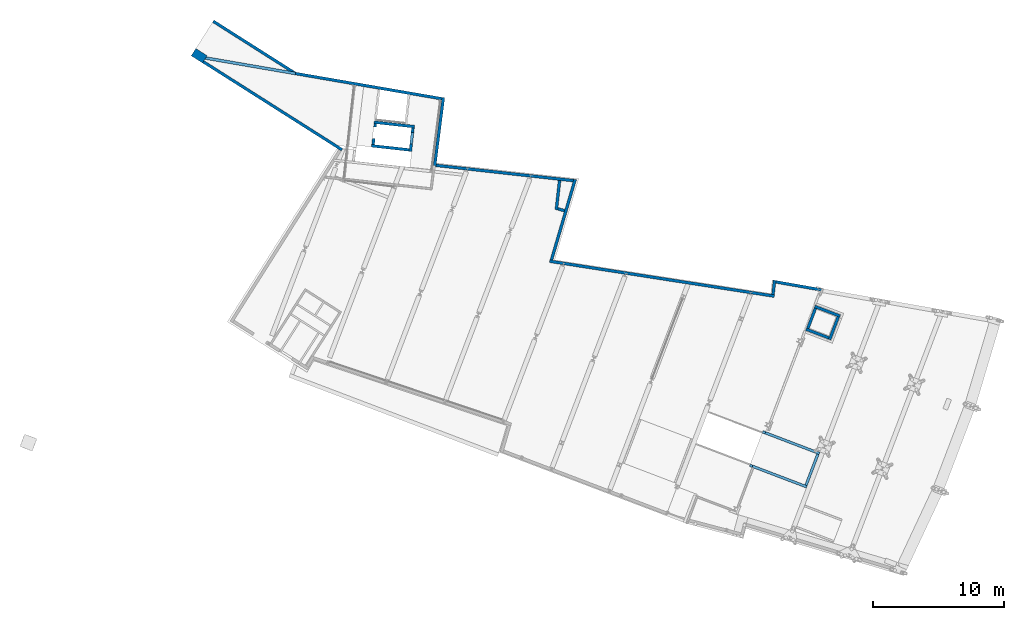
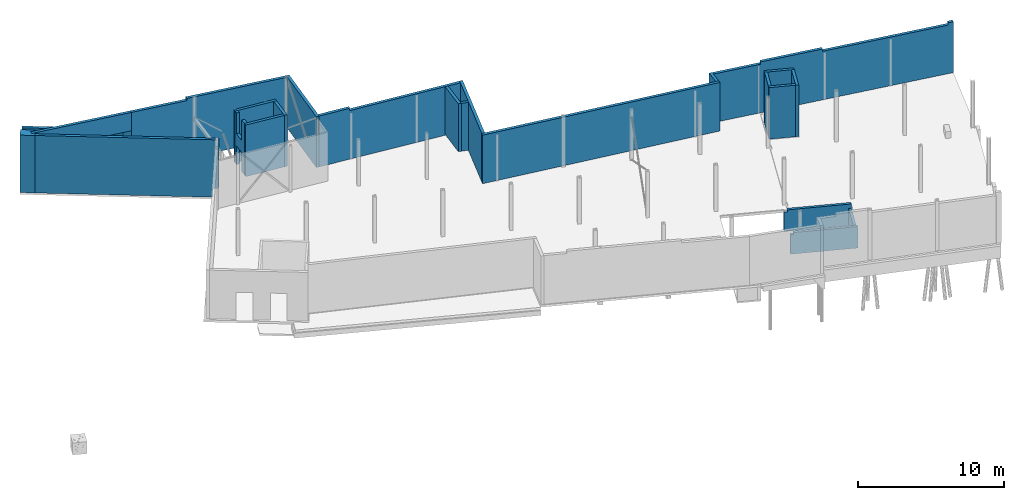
# One storey, part 43 of 46: 24 walls, 3 openings.
"""IFC2X3 building model written with IfcOpenShell, lengths in millimetres."""

from ifc_helpers import new_model, entity, si_unit, converted_unit, derived_unit, direction, frame, frame_2d, origin, place, context, subcontext, project, spatial, polyline, rectangle, outline, extrude, clip, halfspace, bounded_halfspace, faceted_brep, material, layer, layer_set, layer_usage, type_object, element, save


model = new_model("IFC2X3")

# Units and contexts
model_context = context("Model", 3, precision=0.01, world=origin(), true_north=direction((6.123233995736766e-17, 1.0)))
body_context = subcontext(model_context, "Body", "Model", "MODEL_VIEW")
ifc_project = project(units=[si_unit("LENGTHUNIT", "METRE", prefix="MILLI"), converted_unit("PLANEANGLEUNIT", "DEGREE", entity("IfcPlaneAngleMeasure", 0.017453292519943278), si_unit("PLANEANGLEUNIT", "RADIAN"), dimensions=[0, 0, 0, 0, 0, 0, 0]), si_unit("AREAUNIT", "SQUARE_METRE"), derived_unit("THERMALTRANSMITTANCEUNIT", [(si_unit("MASSUNIT", "GRAM", prefix="KILO"), 1), (si_unit("THERMODYNAMICTEMPERATUREUNIT", "KELVIN"), -1), (si_unit("TIMEUNIT", "SECOND"), -3)])], contexts=[model_context])

# Site, building, storey
site_placement = place(None, frame((-72937.88054949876, 11621.45624098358, 0.0), z_axis=(0.0, 0.0, 1.0), x_axis=(0.9346418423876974, -0.35559053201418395, 0.0)))
site = spatial("IfcSite", under=ifc_project, at=site_placement, Name="Default", CompositionType="ELEMENT")
building_placement = place(site_placement, origin())
building = spatial("IfcBuilding", under=site, at=building_placement, CompositionType="ELEMENT")
storey_placement = place(building_placement, origin())
storey = spatial("IfcBuildingStorey", under=building, at=storey_placement, Name="00 begane grond", CompositionType="ELEMENT", Elevation=0.0)

# Walls
ifc_material_1 = material(Name="steenachtig_baksteen_steen")
ifc_layer_1 = layer(ifc_material_1, 220.0)
ifc_layer_set_1 = layer_set([ifc_layer_1], Name="Basic Wall:22.21_WA_Metselwerk 220mm")
ifc_layer_usage_1 = layer_usage(ifc_layer_set_1, "AXIS2", "POSITIVE", -110.0)
wall_type_1 = type_object("IfcWallType", Name="22.21_muur", PredefinedType="STANDARD", material=ifc_layer_set_1)
wall_1_placement = place(storey_placement, frame((20793.142018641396, 36487.393505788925, -60.0), z_axis=(0.0, 0.0, 1.0), x_axis=(0.2347367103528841, -0.9720589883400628, 0.0)))
element("IfcWallStandardCase", 1, at=wall_1_placement, inside=storey, type_object=wall_type_1, material=ifc_layer_usage_1, Name="Basic Wall:22.21_WA_Metselwerk 220mm", ObjectType="Basic Wall:22.21_WA_Metselwerk 220mm", context=body_context, shape_type="SweptSolid", body=[
    extrude(outline(polyline([(5336.076458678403, -110.0), (5332.603547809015, 110.0), (5112.576137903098, 110.0), (9.730940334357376, 110.0), (0.0, -110.0), (5336.076458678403, -110.0)])), origin(), (0.0, 0.0, 1.0), 4250.0),
])
ifc_layer_usage_2 = layer_usage(ifc_layer_set_1, "AXIS2", "NEGATIVE", 110.0)
wall_2_placement = place(storey_placement, frame((32833.90924284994, 27665.482047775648, -60.0), z_axis=(0.0, 0.0, 1.0), x_axis=(0.9781855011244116, 0.2077333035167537, 0.0)))
element("IfcWallStandardCase", 2, at=wall_2_placement, inside=storey, type_object=wall_type_1, material=ifc_layer_usage_2, Name="Basic Wall:22.21_WA_Metselwerk 220mm", ObjectType="Basic Wall:22.21_WA_Metselwerk 220mm", context=body_context, shape_type="Clipping", body=[
    clip(extrude(outline(polyline([(17426.86842745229, -110.0), (17417.245947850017, 110.0), (17197.0356117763, 110.0), (251.15326873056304, 110.0), (29.221129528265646, 110.0), (0.0, -110.0), (17426.86842745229, -110.0)])), origin(), (0.0, 0.0, 1.0), 4060.0), bounded_halfspace(frame((0.0, -110.0, 4060.0), z_axis=(0.0, 0.0, -1.0), x_axis=(0.2077333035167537, 0.9781855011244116, 0.0)), True, frame((0.0, -110.0, 4060.0)), polyline([(0.0, 0.0), (17426.86842745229, 0.0), (17417.24594785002, 220.0), (17197.035611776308, 220.0), (251.15326873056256, 220.0), (29.221129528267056, 220.0), (0.0, 0.0)]))),
])
ifc_layer_usage_3 = layer_usage(ifc_layer_set_1, "AXIS2", "NEGATIVE", 110.0)
wall_3_placement = place(storey_placement, frame((49741.85690573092, 31363.693864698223, -60.0), z_axis=(0.0, 0.0, 1.0), x_axis=(-0.2502784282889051, 0.96817390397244, 0.0)))
element("IfcWallStandardCase", 3, at=wall_3_placement, inside=storey, type_object=wall_type_1, material=ifc_layer_usage_3, Name="Basic Wall:22.21_WA_Metselwerk 220mm", ObjectType="Basic Wall:22.21_WA_Metselwerk 220mm", context=body_context, shape_type="Clipping", body=[
    clip(extrude(outline(polyline([(1095.4292679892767, -110.0), (1109.5768375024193, 110.0), (9.622479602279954, 110.0), (0.0, -110.0), (874.9748424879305, -110.0), (1095.4292679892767, -110.0)])), origin(), (0.0, 0.0, 1.0), 4060.0), bounded_halfspace(frame((0.0, -110.0, 4060.0), z_axis=(0.0, 0.0, -1.0), x_axis=(0.96817390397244, -0.2502784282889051, 0.0)), True, frame((0.0, -110.0, 4060.0)), polyline([(0.0, 0.0), (874.9748424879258, 0.0), (1095.4292679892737, 0.0), (1109.5768375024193, 220.0), (9.622479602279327, 220.0), (0.0, 0.0)]))),
])
ifc_layer_usage_4 = layer_usage(ifc_layer_set_1, "AXIS2", "POSITIVE", -110.0)
wall_4_placement = place(storey_placement, frame((32949.31457898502, 27787.636962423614, -60.0), z_axis=(0.0, 0.0, 1.0), x_axis=(-0.07713007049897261, 0.9970210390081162, 0.0)))
element("IfcWallStandardCase", 4, at=wall_4_placement, inside=storey, type_object=wall_type_1, material=ifc_layer_usage_4, Name="Basic Wall:22.21_WA_Metselwerk 220mm", ObjectType="Basic Wall:22.21_WA_Metselwerk 220mm", context=body_context, shape_type="Clipping", body=[
    clip(extrude(outline(polyline([(6467.96028402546, -110.0), (6428.94313082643, 110.0), (6205.510057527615, 110.0), (0.0, 110.0), (29.22112952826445, -110.0), (6467.96028402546, -110.0)])), origin(), (0.0, 0.0, 1.0), 4059.9999999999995), bounded_halfspace(frame((29.221129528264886, -110.0, 4060.0), z_axis=(0.0, 0.0, -1.0), x_axis=(0.9970210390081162, -0.07713007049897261, 0.0)), True, frame((29.221129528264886, -110.0, 4060.0)), polyline([(0.0, 0.0), (6438.739154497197, 0.0), (6399.722001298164, 220.0), (6176.288927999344, 220.0), (3997.6435209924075, 220.0), (3777.6435209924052, 220.0), (-29.22112952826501, 220.0), (0.0, 0.0)]))),
])
ifc_layer_usage_5 = layer_usage(ifc_layer_set_1, "AXIS2", "NEGATIVE", 110.0)
wall_5_placement = place(storey_placement, frame((49594.8330609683, 32343.74415494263, -60.0), z_axis=(0.0, 0.0, 1.0), x_axis=(0.9822397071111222, 0.18763037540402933, 0.0)))
element("IfcWallStandardCase", 5, at=wall_5_placement, inside=storey, type_object=wall_type_1, material=ifc_layer_usage_5, Name="Basic Wall:22.21_WA_Metselwerk 220mm", ObjectType="Basic Wall:22.21_WA_Metselwerk 220mm", context=body_context, shape_type="Clipping", body=[
    clip(clip(extrude(outline(polyline([(17489.566682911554, -110.0), (17489.56668291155, 110.0), (0.0, 110.0), (14.14756951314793, -110.0), (17489.566682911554, -110.0)])), origin(), (0.0, 0.0, 1.0), 4250.000000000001), bounded_halfspace(frame((14.147569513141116, -110.0, 4060.0), z_axis=(0.0, 0.0, -1.0), x_axis=(0.18763037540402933, 0.9822397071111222, 0.0)), True, frame((14.147569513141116, -110.0, 4060.0)), polyline([(0.0, 0.0), (3411.2154792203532, 0.0), (3453.240539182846, 220.0), (-14.147569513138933, 220.0), (0.0, 0.0)]))), bounded_halfspace(frame((7945.644572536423, -110.0, 4060.0), z_axis=(0.0, 0.0, -1.0), x_axis=(0.18763037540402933, 0.9822397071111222, 0.0)), True, frame((7945.644572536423, -110.0, 4060.0)), polyline([(0.0, 0.0), (9156.780226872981, 0.0), (9182.138076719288, 220.0), (42.0250599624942, 220.0), (0.0, 0.0)]))),
])
ifc_layer_usage_6 = layer_usage(ifc_layer_set_1, "AXIS2", "NEGATIVE", 110.0)
wall_6_placement = place(storey_placement, frame((22124.320773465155, 31436.11494332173, -60.0), z_axis=(0.0, 0.0, 1.0), x_axis=(0.9682328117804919, 0.2500504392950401, 0.0)))
element("IfcWallStandardCase", 6, at=wall_6_placement, inside=storey, type_object=wall_type_1, material=ifc_layer_usage_6, Name="Basic Wall:22.21_WA_Metselwerk 220mm", ObjectType="Basic Wall:22.21_WA_Metselwerk 220mm", context=body_context, shape_type="Clipping", body=[
    clip(extrude(outline(polyline([(10544.142266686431, -110.0), (10583.159419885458, 110.0), (3.4729108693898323, 110.0), (0.0, -110.0), (10544.142266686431, -110.0)])), origin(), (0.0, 0.0, 1.0), 4250.0), bounded_halfspace(frame((2270.294552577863, -110.0, 4060.0), z_axis=(0.0, 0.0, -1.0), x_axis=(0.2500504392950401, 0.9682328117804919, 0.0)), True, frame((2270.294552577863, -110.0, 4060.0)), polyline([(0.0, 0.0), (7136.297940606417, 0.0), (7356.297940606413, 0.0), (8273.847714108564, 0.0), (8312.864867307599, 220.0), (56.81598059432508, 220.0), (0.0, 0.0)]))),
])
wall_7_placement = place(storey_placement, frame((20716.837186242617, 36355.473432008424, -800.0), z_axis=(0.0, 0.0, 1.0), x_axis=(-0.9814821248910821, -0.19155374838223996, 0.0)))
element("IfcWall", 7, at=wall_7_placement, inside=storey, type_object=wall_type_1, Name="Basic Wall:22.21_WA_Metselwerk 220mm", ObjectType="Basic Wall:22.21_WA_Metselwerk 220mm", context=body_context, shape_type="Brep", body=[
    faceted_brep([(9.73094033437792, -110.0, 4990.0), (9.73094033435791, -110.0, 740.0), (9.730940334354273, -110.0, 0.0), (11336.119058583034, -110.0, 0.0), (11908.177860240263, -110.0, 0.0), (11908.17786024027, -110.0, 3264.766006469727), (11908.177860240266, -110.0, 3294.7660064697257), (11358.116608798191, -110.0, 3294.7660064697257), (11358.116608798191, -110.0, 4800.0), (7346.576492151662, -110.0, 4800.0), (7346.576492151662, -110.0, 4990.0), (0.0, 110.0, 0.0), (0.0, 110.0, 4990.0), (7335.2488949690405, 110.0, 4990.0), (7335.248894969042, 110.0, 4800.0), (11358.116608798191, 110.0, 4800.0), (11358.116608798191, 110.0, 3294.7660064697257), (11380.114159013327, 110.0, 3294.7660064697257), (11380.114159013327, 110.0, 3264.7660064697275), (11380.11415901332, 110.0, 0.0)], [[[0, 1, 2, 3, 4, 5, 6, 7, 8, 9, 10]], [[11, 12, 13, 14, 15, 16, 17, 18, 19]], [[4, 3, 2, 11, 19]], [[0, 10, 13, 12]], [[13, 10, 9, 14]], [[9, 8, 15, 14]], [[0, 12, 11, 2, 1]], [[8, 7, 16, 15]], [[16, 7, 6, 17]], [[4, 19, 18, 17, 6, 5]]]),
])
ifc_layer_usage_7 = layer_usage(ifc_layer_set_1, "AXIS2", "NEGATIVE", 110.0)
wall_8_placement = place(storey_placement, frame((31934.555067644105, 31508.10745154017, 0.0), z_axis=(0.0, 0.0, 1.0), x_axis=(-0.25005043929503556, 0.968232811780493, 0.0)))
element("IfcWallStandardCase", 8, at=wall_8_placement, inside=storey, type_object=wall_type_1, material=ifc_layer_usage_7, Name="Basic Wall:22.21_WA_Metselwerk 220mm", ObjectType="Basic Wall:22.21_WA_Metselwerk 220mm", context=body_context, shape_type="SweptSolid", body=[
    extrude(outline(polyline([(2273.3478861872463, -110.0), (2273.347886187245, 110.0), (39.01715319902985, 110.0), (0.0, -110.0), (223.43307329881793, -110.0), (2273.3478861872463, -110.0)])), origin(), (0.0, 0.0, 1.0), 4000.0000000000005),
])
ifc_layer_usage_8 = layer_usage(ifc_layer_set_1, "AXIS2", "NEGATIVE", 110.0)
wall_9_placement = place(storey_placement, frame((31993.675446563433, 31642.275918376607, 0.0), z_axis=(0.0, 0.0, 1.0), x_axis=(0.9970210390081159, 0.07713007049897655, 0.0)))
element("IfcWallStandardCase", 9, at=wall_9_placement, inside=storey, type_object=wall_type_1, material=ifc_layer_usage_8, Name="Basic Wall:22.21_WA_Metselwerk 220mm", ObjectType="Basic Wall:22.21_WA_Metselwerk 220mm", context=body_context, shape_type="SweptSolid", body=[
    extrude(outline(polyline([(545.4837463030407, -110.0), (545.4837463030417, 110.0), (0.0, 110.0), (39.01715319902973, -110.0), (545.4837463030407, -110.0)])), origin(), (0.0, 0.0, 1.0), 4000.0000000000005),
])
ifc_layer_usage_9 = layer_usage(ifc_layer_set_1, "AXIS2", "NEGATIVE", 110.0)
wall_10_placement = place(storey_placement, frame((14965.14868633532, 29986.97947351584, -800.0), z_axis=(0.0, 0.0, 1.0), x_axis=(-0.9796666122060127, 0.2006323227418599, 0.0)))
element("IfcWallStandardCase", 10, at=wall_10_placement, inside=storey, type_object=wall_type_1, material=ifc_layer_usage_9, Name="Basic Wall:22.21_WA_Metselwerk 220mm", ObjectType="Basic Wall:22.21_WA_Metselwerk 220mm", context=body_context, shape_type="Clipping", body=[
    clip(clip(extrude(outline(polyline([(0.21545175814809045, -110.0), (12580.09717231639, -110.0), (12580.09717231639, 110.0), (0.0, 110.0), (0.21545175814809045, -110.0)])), origin(), (0.0, 0.0, 1.0), 4800.0), bounded_halfspace(frame((12580.097172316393, -110.0, 0.0), z_axis=(0.0, 0.0, 1.0), x_axis=(-0.902096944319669, -0.4315334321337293, 0.0)), True, frame((12580.097172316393, -110.0, 0.0)), polyline([(0.0, 0.0), (0.0, 220.0), (-12200.096990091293, 220.0), (-12199.88153833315, 0.0), (0.0, 0.0)]))), bounded_halfspace(frame((380.21563398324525, -110.0, 740.0), z_axis=(0.0, 0.0, -1.0), x_axis=(0.0, 1.0, 0.0)), False, frame((380.21563398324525, -110.0, 740.0)), polyline([(0.0, 0.0), (-0.21545175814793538, 220.0), (-160.2155284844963, 220.0), (-380.21563398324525, 220.0), (-380.0001822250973, 0.0), (0.0, 0.0)]))),
])
ifc_layer_usage_10 = layer_usage(ifc_layer_set_1, "AXIS2", "NEGATIVE", 110.0)
wall_11_placement = place(storey_placement, frame((9547.498496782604, 34184.19704062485, -800.0), z_axis=(0.0, 0.0, 1.0), x_axis=(-0.9796666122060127, 0.2006323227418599, 0.0)))
element("IfcWallStandardCase", 11, at=wall_11_placement, inside=storey, type_object=wall_type_1, material=ifc_layer_usage_10, Name="Basic Wall:22.21_WA_Metselwerk 220mm", ObjectType="Basic Wall:22.21_WA_Metselwerk 220mm", context=body_context, shape_type="SweptSolid", body=[
    extrude(outline(polyline([(7454.1691137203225, -110.0), (7454.1691137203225, 110.0), (528.063701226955, 110.0), (0.0, -110.0), (7454.1691137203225, -110.0)])), origin(), (0.0, 0.0, 1.0), 3294.7660064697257),
])
wall_12_placement = place(storey_placement, frame((9569.0487622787, 34179.783621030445, 2464.7660064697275), z_axis=(0.0, 0.0, 1.0), x_axis=(-0.9814821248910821, -0.19155374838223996, 0.0)))
element("IfcWall", 12, at=wall_12_placement, inside=storey, type_object=wall_type_1, Name="Basic Wall:22.21_WA_Metselwerk 220mm", ObjectType="Basic Wall:22.21_WA_Metselwerk 220mm", context=body_context, shape_type="Brep", body=[
    faceted_brep([(550.0612514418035, -110.0, 0.0), (6944.262518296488, -110.0, 0.0), (7293.536949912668, -110.0, 0.0), (7293.536949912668, -110.0, 1535.233993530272), (6944.262518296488, -110.0, 1535.233993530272), (0.0, -110.0, 1535.233993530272), (0.0, -110.0, 30.0), (550.0612514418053, -110.0, 30.0), (7293.536949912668, 110.0, 0.0), (7035.918127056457, 110.0, 0.0), (21.99755021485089, 110.0, 0.0), (21.997550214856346, 110.0, 30.0), (0.0, 110.0, 30.0), (0.0, 110.0, 1535.233993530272), (7035.918127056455, 110.0, 1535.233993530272), (7293.536949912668, 110.0, 1535.233993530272)], [[[0, 1, 2, 3, 4, 5, 6, 7]], [[8, 9, 10, 11, 12, 13, 14, 15]], [[2, 1, 0, 10, 9, 8]], [[3, 2, 8, 15]], [[5, 4, 3, 15, 14, 13]], [[5, 13, 12, 6]], [[6, 12, 11, 7]], [[10, 0, 7, 11]]]),
])
ifc_layer_2 = layer(ifc_material_1, 660.0000000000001)
ifc_layer_set_2 = layer_set([ifc_layer_2], Name="Basic Wall:22.21_WA_Metselwerk 660mm")
wall_type_2 = type_object("IfcWallType", Name="22.21_muur", PredefinedType="STANDARD", material=ifc_layer_set_2)
wall_13_placement = place(storey_placement, frame((2684.986619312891, 32726.480244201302, -800.0), z_axis=(0.0, 0.0, 1.0), x_axis=(-0.9796666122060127, 0.2006323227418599, 0.0)))
element("IfcWall", 13, at=wall_13_placement, inside=storey, type_object=wall_type_2, Name="Basic Wall:22.21_WA_Metselwerk 660mm", ObjectType="Basic Wall:22.21_WA_Metselwerk 660mm", context=body_context, shape_type="Brep", body=[
    faceted_brep([(0.0, -330.0, 0.0), (1023.6604582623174, -330.0, 0.0), (1023.6604582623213, -330.0, 4800.0), (0.0, -330.0, 4800.0), (1023.6604582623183, 330.0, 0.0), (0.0, 330.0, 0.0), (0.0, 330.0, 4800.0), (1023.6604582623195, 330.0, 4800.0), (0.0, 2.466295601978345, 4800.0), (237.8062337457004, 101.54027342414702, 4800.0), (322.41292078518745, -101.5402734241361, 4800.0), (0.0, -235.86278490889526, 4800.0), (0.0, -235.86278490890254, 3264.7660064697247), (0.0, 2.466295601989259, 3264.7660064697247), (322.4129207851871, -101.5402734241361, 3264.7660064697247), (237.80623374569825, 101.54027342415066, 3264.7660064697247)], [[[0, 1, 2, 3]], [[4, 5, 6, 7]], [[1, 0, 5, 4]], [[2, 1, 4, 7]], [[3, 2, 7, 6, 8, 9, 10, 11]], [[0, 3, 11, 12, 13, 8, 6, 5]], [[10, 14, 12, 11]], [[15, 9, 8, 13]], [[14, 15, 13, 12]], [[14, 10, 9, 15]]]),
])
ifc_material_2 = material(Name="beton_gewapend_ihw_c30/37")
ifc_layer_3 = layer(ifc_material_2, 200.0)
ifc_layer_set_3 = layer_set([ifc_layer_3], Name="Basic Wall:22.21_WA_Beton 200mm - C30/37")
ifc_layer_usage_11 = layer_usage(ifc_layer_set_3, "AXIS2", "NEGATIVE", 100.0)
wall_type_3 = type_object("IfcWallType", Name="22.21_muur", PredefinedType="STANDARD", material=ifc_layer_set_3)
wall_14_placement = place(storey_placement, frame((52730.0, 21260.0, -1850.0)))
element("IfcWallStandardCase", 14, at=wall_14_placement, inside=storey, type_object=wall_type_3, material=ifc_layer_usage_11, Name="Basic Wall:22.21_WA_Beton 200mm - C30/37", ObjectType="Basic Wall:22.21_WA_Beton 200mm - C30/37", context=body_context, shape_type="Clipping", body=[
    clip(clip(extrude(rectangle(XDim=4664.999999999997, YDim=199.99999999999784, at=frame_2d((2332.4999999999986, -2.1316282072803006e-14), x_axis=(-1.0, 0.0))), origin(), (0.0, 0.0, 1.0), 1790.0000000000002), bounded_halfspace(frame((220.0, -100.0, 1620.0), z_axis=(0.0, 0.0, -1.0), x_axis=(0.1996728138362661, 0.9798626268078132, 0.0)), True, frame((220.0, -100.0, 1620.0), z_axis=(0.0, 0.0, -1.0), x_axis=(0.1996728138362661, 0.9798626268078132, 0.0)), polyline([(0.0, 0.0), (-43.92801904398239, -215.56977789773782), (152.044506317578, -255.50434066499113), (195.97252536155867, -39.934562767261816), (0.0, 0.0)]))), bounded_halfspace(frame((220.0, 100.0, 1620.0), z_axis=(1.0, 0.0, 0.0), x_axis=(0.0, 0.0, 1.0)), True, frame((220.0, 100.0, 1620.0), z_axis=(1.0, 0.0, 0.0), x_axis=(0.0, 0.0, 1.0)), polyline([(0.0, 0.0), (170.0, 0.0), (170.0, 200.0), (0.0, 200.0), (0.0, 0.0)]))),
])
ifc_layer_usage_12 = layer_usage(ifc_layer_set_3, "AXIS2", "NEGATIVE", 100.0)
wall_15_placement = place(storey_placement, frame((57295.0, 21160.0, -1850.0), z_axis=(0.0, 0.0, 1.0), x_axis=(0.0, -1.0, 0.0)))
element("IfcWallStandardCase", 15, at=wall_15_placement, inside=storey, type_object=wall_type_3, material=ifc_layer_usage_12, Name="Basic Wall:22.21_WA_Beton 200mm - C30/37", ObjectType="Basic Wall:22.21_WA_Beton 200mm - C30/37", context=body_context, shape_type="SweptSolid", body=[
    extrude(rectangle(XDim=2539.9999999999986, YDim=199.99999999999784, at=frame_2d((1269.9999999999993, 4.334310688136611e-12), x_axis=(-1.0, 0.0))), origin(), (0.0, 0.0, 1.0), 1439.9999999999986),
])
ifc_layer_usage_13 = layer_usage(ifc_layer_set_3, "AXIS2", "NEGATIVE", 100.0)
wall_16_placement = place(storey_placement, frame((57395.0, 18520.0, -1850.0), z_axis=(0.0, 0.0, 1.0), x_axis=(-1.0, 0.0, 0.0)))
element("IfcWallStandardCase", 16, at=wall_16_placement, inside=storey, type_object=wall_type_3, material=ifc_layer_usage_13, Name="Basic Wall:22.21_WA_Beton 200mm - C30/37", ObjectType="Basic Wall:22.21_WA_Beton 200mm - C30/37", context=body_context, shape_type="Clipping", body=[
    clip(clip(extrude(rectangle(XDim=4664.999999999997, YDim=200.0, at=frame_2d((2332.4999999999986, -1.5987211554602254e-12), x_axis=(-1.0, 0.0))), origin(), (0.0, 0.0, 1.0), 1790.0000000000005), bounded_halfspace(frame((4445.0, 100.0, 1620.0), z_axis=(0.0, 0.0, -1.0), x_axis=(-0.1996728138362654, -0.9798626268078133, 0.0)), True, frame((4445.0, 100.0, 1620.0), z_axis=(0.0, 0.0, -1.0), x_axis=(-0.19967281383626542, -0.9798626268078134, 0.0)), polyline([(0.0, 0.0), (-43.92801904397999, -215.5697778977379), (152.04450631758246, -255.5043406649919), (195.97252536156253, -39.93456276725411), (0.0, 0.0)]))), bounded_halfspace(frame((4445.0, -100.0, 1620.0), z_axis=(-1.0, 0.0, 0.0), x_axis=(0.0, 0.0, 1.0)), True, frame((4445.0, -100.0, 1620.0), z_axis=(-1.0, 0.0, 0.0), x_axis=(0.0, 0.0, 1.0)), polyline([(0.0, 0.0), (170.0, 0.0), (170.0, 200.0), (0.0, 200.0), (0.0, 0.0)]))),
])
ifc_material_3 = material(Name="steenachtig_kalkzandsteen_generiek")
ifc_layer_4 = layer(ifc_material_3, 214.0)
ifc_layer_set_4 = layer_set([ifc_layer_4], Name="Basic Wall:22.21_WA_Kalkzandsteen214mm")
ifc_layer_usage_14 = layer_usage(ifc_layer_set_4, "AXIS2", "NEGATIVE", 107.0)
wall_type_4 = type_object("IfcWallType", Name="NLRS_22_WA_LIB_Muur_gen_EPA:Kalkzandsteen 200mm", PredefinedType="STANDARD", material=ifc_layer_set_4)
wall_17_placement = place(storey_placement, frame((16513.246333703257, 32836.91860785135, -60.0), z_axis=(0.0, 0.0, 1.0), x_axis=(0.9679826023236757, 0.2510172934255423, 0.0)))
element("IfcWallStandardCase", 17, at=wall_17_placement, inside=storey, type_object=wall_type_4, material=ifc_layer_usage_14, Name="Basic Wall:22.21_WA_Kalkzandsteen214mm", ObjectType="Basic Wall:22.21_WA_Kalkzandsteen214mm", context=body_context, shape_type="Clipping", body=[
    clip(extrude(outline(polyline([(3107.999972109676, -107.0), (3107.999972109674, 107.0), (4.3983270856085e-06, 107.0), (0.0, -107.0), (214.0, -107.0), (2893.999972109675, -107.0), (3107.999972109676, -107.0)])), origin(), (0.0, 0.0, 1.0), 4310.0), halfspace(frame((0.0, 0.0, -60.0)), True)),
])

# Wall, opening
ifc_layer_usage_15 = layer_usage(ifc_layer_set_4, "AXIS2", "NEGATIVE", 107.0)
wall_18_placement = place(storey_placement, frame((19445.020946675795, 33486.64735997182, -60.0), z_axis=(0.0, 0.0, 1.0), x_axis=(0.2510172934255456, -0.967982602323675, 0.0)))
wall_18 = element("IfcWallStandardCase", 18, at=wall_18_placement, inside=storey, type_object=wall_type_4, material=ifc_layer_usage_15, Name="Basic Wall:22.21_WA_Kalkzandsteen214mm", ObjectType="Basic Wall:22.21_WA_Kalkzandsteen214mm", context=body_context, shape_type="Clipping", body=[
    clip(extrude(rectangle(XDim=1814.000003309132, YDim=214.0000000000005, at=frame_2d((907.0000016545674, -3.240074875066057e-12), x_axis=(-1.0, 0.0))), origin(), (0.0, 0.0, 1.0), 4310.0), halfspace(frame((0.0, 0.0, -60.0)), True)),
])
opening_1_placement = place(wall_18_placement, frame((27533.455525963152, -27228.16956439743, 60.0)))
element("IfcOpeningElement", 19, at=opening_1_placement, cuts=wall_18, Name="31.10_Constructiesparing", ObjectType="Opening", context=body_context, shape_type="SweptSolid", body=[
    extrude(rectangle(XDim=2299.999999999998, YDim=900.0000000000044, at=frame_2d((0.0, -2.3874235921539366e-12), x_axis=(1.0, 0.0))), frame((-26733.455464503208, 27121.16956439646, 1150.0), z_axis=(0.0, 1.0, 0.0), x_axis=(0.0, 0.0, -1.0)), (0.0, 0.0, 1.0), 214.00000000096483),
])

# Wall
ifc_layer_usage_16 = layer_usage(ifc_layer_set_4, "AXIS2", "NEGATIVE", 107.0)
wall_19_placement = place(storey_placement, frame((19769.933328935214, 31807.442204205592, -60.0), z_axis=(0.0, 0.0, 1.0), x_axis=(-0.9679826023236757, -0.2510172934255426, 0.0)))
element("IfcWallStandardCase", 20, at=wall_19_placement, inside=storey, type_object=wall_type_4, material=ifc_layer_usage_16, Name="Basic Wall:22.21_WA_Kalkzandsteen214mm", ObjectType="Basic Wall:22.21_WA_Kalkzandsteen214mm", context=body_context, shape_type="Clipping", body=[
    clip(extrude(outline(polyline([(2894.000004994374, -107.0), (2894.0000093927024, 107.0), (0.0, 107.0), (0.0, -107.0), (2680.000004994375, -107.0), (2894.000004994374, -107.0)])), origin(), (0.0, 0.0, 1.0), 4310.0), halfspace(frame((0.0, 0.0, -60.0)), True)),
])

# Wall, openings
ifc_layer_usage_17 = layer_usage(ifc_layer_set_4, "AXIS2", "NEGATIVE", 107.0)
wall_20_placement = place(storey_placement, frame((17045.306961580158, 31211.43114249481, -60.0), z_axis=(0.0, 0.0, 1.0), x_axis=(-0.25101727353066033, 0.9679826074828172, 0.0)))
wall_20 = element("IfcWallStandardCase", 21, at=wall_20_placement, inside=storey, type_object=wall_type_4, material=ifc_layer_usage_17, Name="Basic Wall:22.21_WA_Kalkzandsteen214mm", ObjectType="Basic Wall:22.21_WA_Kalkzandsteen214mm", context=body_context, shape_type="Clipping", body=[
    clip(extrude(outline(polyline([(0.0, 107.0), (4.3983258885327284e-06, -107.0), (1600.000007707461, -107.0), (1600.0000033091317, 107.0), (0.0, 107.0)])), origin(), (0.0, 0.0, 1.0), 4310.0), halfspace(frame((0.0, 0.0, -60.0)), True)),
])
opening_2_placement = place(wall_20_placement, frame((-25933.4560205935, 24334.169026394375, -723.1496619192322)))
element("IfcOpeningElement", 22, at=opening_2_placement, cuts=wall_20, Name="31.10_Constructiesparing", ObjectType="Opening", context=body_context, shape_type="SweptSolid", body=[
    extrude(rectangle(XDim=2299.9999999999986, YDim=900.0000000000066, at=frame_2d((0.0, -2.5579538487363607e-13), x_axis=(1.0, 0.0))), frame((26840.45559610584, -24441.16902639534, 1150.0), z_axis=(0.0, 1.0, 0.0), x_axis=(0.0, 0.0, -1.0)), (0.0, 0.0, 1.0), 214.00000000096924),
])
opening_3_placement = place(wall_20_placement, frame((-25933.4560205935, 24334.169026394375, 2580.0)))
element("IfcOpeningElement", 23, at=opening_3_placement, cuts=wall_20, Name="31.10_Constructiesparing", ObjectType="Opening", context=body_context, shape_type="SweptSolid", body=[
    extrude(rectangle(XDim=2299.9999999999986, YDim=900.0000000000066, at=frame_2d((-2.2737367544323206e-13, 2.5579538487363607e-13), x_axis=(1.0, 0.0))), frame((26840.455596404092, -24441.169026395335, 1150.0), z_axis=(0.0, 1.0, 0.0), x_axis=(0.0, 0.0, -1.0)), (0.0, 0.0, 1.0), 214.00000000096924),
])

# Walls
ifc_layer_usage_18 = layer_usage(ifc_layer_set_4, "AXIS2", "POSITIVE", -107.0)
wall_21_placement = place(storey_placement, frame((53046.0, 31647.0, -60.0)))
element("IfcWallStandardCase", 24, at=wall_21_placement, inside=storey, type_object=wall_type_4, material=ifc_layer_usage_18, Name="Basic Wall:22.21_WA_Kalkzandsteen214mm", ObjectType="Basic Wall:22.21_WA_Kalkzandsteen214mm", context=body_context, shape_type="Clipping", body=[
    clip(extrude(rectangle(XDim=2078.000000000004, YDim=213.999999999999, at=frame_2d((1039.000000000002, 2.7213786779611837e-12), x_axis=(-1.0, 0.0))), origin(), (0.0, 0.0, 1.0), 4310.0), halfspace(frame((0.0, 0.0, -60.0)), True)),
])
ifc_layer_usage_19 = layer_usage(ifc_layer_set_4, "AXIS2", "POSITIVE", -107.0)
wall_22_placement = place(storey_placement, frame((55017.0, 31540.0, -60.0), z_axis=(0.0, 0.0, 1.0), x_axis=(0.0, -1.0, 0.0)))
element("IfcWallStandardCase", 25, at=wall_22_placement, inside=storey, type_object=wall_type_4, material=ifc_layer_usage_19, Name="Basic Wall:22.21_WA_Kalkzandsteen214mm", ObjectType="Basic Wall:22.21_WA_Kalkzandsteen214mm", context=body_context, shape_type="Clipping", body=[
    clip(extrude(rectangle(XDim=1864.000000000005, YDim=214.00000000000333, at=frame_2d((932.0000000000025, 0.0), x_axis=(-1.0, 0.0))), origin(), (0.0, 0.0, 1.0), 4310.0), halfspace(frame((0.0, 0.0, -60.0)), True)),
])
ifc_layer_usage_20 = layer_usage(ifc_layer_set_4, "AXIS2", "POSITIVE", -107.0)
wall_23_placement = place(storey_placement, frame((54910.0, 29783.0, -60.0), z_axis=(0.0, 0.0, 1.0), x_axis=(-1.0, 0.0, 0.0)))
element("IfcWallStandardCase", 26, at=wall_23_placement, inside=storey, type_object=wall_type_4, material=ifc_layer_usage_20, Name="Basic Wall:22.21_WA_Kalkzandsteen214mm", ObjectType="Basic Wall:22.21_WA_Kalkzandsteen214mm", context=body_context, shape_type="Clipping", body=[
    clip(extrude(rectangle(XDim=1864.0000000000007, YDim=213.99999999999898, at=frame_2d((932.0000000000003, 2.4442670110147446e-12), x_axis=(-1.0, 0.0))), origin(), (0.0, 0.0, 1.0), 4310.0), halfspace(frame((0.0, 0.0, -60.0)), True)),
])
ifc_layer_usage_21 = layer_usage(ifc_layer_set_4, "AXIS2", "POSITIVE", -107.0)
wall_24_placement = place(storey_placement, frame((53153.0, 29890.0, -60.0), z_axis=(0.0, 0.0, 1.0), x_axis=(0.0, 1.0, 0.0)))
element("IfcWallStandardCase", 27, at=wall_24_placement, inside=storey, type_object=wall_type_4, material=ifc_layer_usage_21, Name="Basic Wall:22.21_WA_Kalkzandsteen214mm", ObjectType="Basic Wall:22.21_WA_Kalkzandsteen214mm", context=body_context, shape_type="Clipping", body=[
    clip(extrude(rectangle(XDim=1650.0000000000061, YDim=214.00000000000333, at=frame_2d((825.0000000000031, 0.0), x_axis=(-1.0, 0.0))), origin(), (0.0, 0.0, 1.0), 4310.0), halfspace(frame((0.0, 0.0, -60.0)), True)),
])

save(model, "model.ifc")
